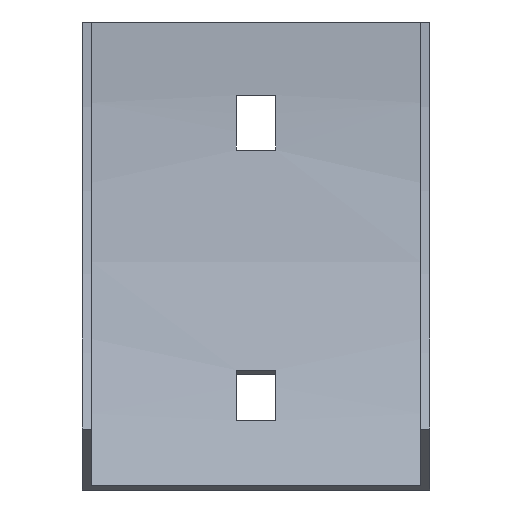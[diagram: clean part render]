
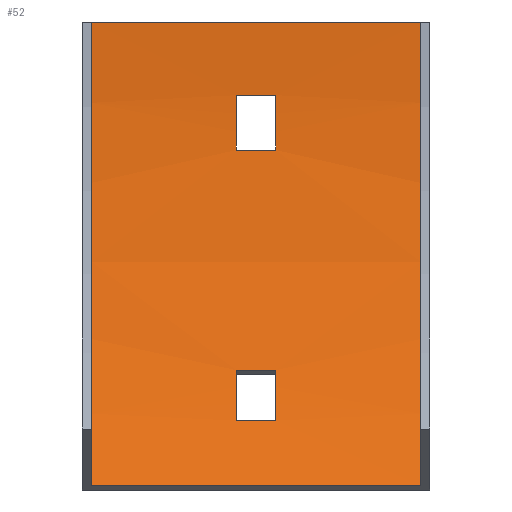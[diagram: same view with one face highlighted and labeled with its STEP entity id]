
A CAD part, front view. The second image highlights one B-rep face of the part: STEP entity #52.
In plain terms, the highlighted cylindrical face has radius 152 mm (diameter 304 mm), a partial arc.
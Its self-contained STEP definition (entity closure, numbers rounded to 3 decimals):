
#10 = ORIENTED_EDGE ( 'NONE', *, *, #499, .F. ) ;
#21 = DIRECTION ( 'NONE',  ( 1., 0., 0. ) ) ;
#26 = CARTESIAN_POINT ( 'NONE',  ( 27., -21.864, -76. ) ) ;
#31 = EDGE_CURVE ( 'NONE', #151, #496, #356, .T. ) ;
#36 = VECTOR ( 'NONE', #170, 1000. ) ;
#38 = CARTESIAN_POINT ( 'NONE',  ( 27., -1.5, 0. ) ) ;
#49 = CARTESIAN_POINT ( 'NONE',  ( 3.25, -16.275, -65.37 ) ) ;
#51 = VERTEX_POINT ( 'NONE', #474 ) ;
#52 = ADVANCED_FACE ( 'NONE', ( #326, #284, #107 ), #481, .F. ) ;
#54 = CIRCLE ( 'NONE', #358, 152. ) ;
#61 = ORIENTED_EDGE ( 'NONE', *, *, #84, .F. ) ;
#67 = CARTESIAN_POINT ( 'NONE',  ( 27., -153.5, 0. ) ) ;
#68 = DIRECTION ( 'NONE',  ( 1., 0., 0. ) ) ;
#70 = DIRECTION ( 'NONE',  ( 1., 0., 0. ) ) ;
#75 = ORIENTED_EDGE ( 'NONE', *, *, #449, .T. ) ;
#77 = CIRCLE ( 'NONE', #111, 152. ) ;
#82 = VERTEX_POINT ( 'NONE', #289 ) ;
#84 = EDGE_CURVE ( 'NONE', #199, #255, #336, .T. ) ;
#85 = EDGE_CURVE ( 'NONE', #82, #151, #439, .T. ) ;
#88 = AXIS2_PLACEMENT_3D ( 'NONE', #577, #21, #190 ) ;
#95 = EDGE_LOOP ( 'NONE', ( #456, #75, #437, #276 ) ) ;
#107 = FACE_BOUND ( 'NONE', #95, .T. ) ;
#111 = AXIS2_PLACEMENT_3D ( 'NONE', #526, #374, #240 ) ;
#114 = CARTESIAN_POINT ( 'NONE',  ( 27., -21.864, -76. ) ) ;
#117 = VERTEX_POINT ( 'NONE', #49 ) ;
#147 = CARTESIAN_POINT ( 'NONE',  ( -27., -153.5, 0. ) ) ;
#150 = CARTESIAN_POINT ( 'NONE',  ( 28.5, -12.626, -57.085 ) ) ;
#151 = VERTEX_POINT ( 'NONE', #473 ) ;
#170 = DIRECTION ( 'NONE',  ( 1., 0., 0. ) ) ;
#177 = DIRECTION ( 'NONE',  ( 0., 0., 1. ) ) ;
#181 = VECTOR ( 'NONE', #530, 1000. ) ;
#182 = ORIENTED_EDGE ( 'NONE', *, *, #85, .F. ) ;
#190 = DIRECTION ( 'NONE',  ( 0., 0., -1. ) ) ;
#199 = VERTEX_POINT ( 'NONE', #505 ) ;
#202 = VECTOR ( 'NONE', #495, 1000. ) ;
#203 = LINE ( 'NONE', #38, #263 ) ;
#211 = CARTESIAN_POINT ( 'NONE',  ( -3.25, -12.626, -57.085 ) ) ;
#240 = DIRECTION ( 'NONE',  ( 0., 0., 1. ) ) ;
#251 = VERTEX_POINT ( 'NONE', #211 ) ;
#255 = VERTEX_POINT ( 'NONE', #403 ) ;
#263 = VECTOR ( 'NONE', #507, 1000. ) ;
#273 = DIRECTION ( 'NONE',  ( 0., 0., 1. ) ) ;
#274 = EDGE_CURVE ( 'NONE', #496, #462, #472, .T. ) ;
#276 = ORIENTED_EDGE ( 'NONE', *, *, #329, .T. ) ;
#281 = DIRECTION ( 'NONE',  ( -1., 0., 0. ) ) ;
#284 = FACE_OUTER_BOUND ( 'NONE', #392, .T. ) ;
#286 = DIRECTION ( 'NONE',  ( 1., 0., 0. ) ) ;
#288 = AXIS2_PLACEMENT_3D ( 'NONE', #479, #317, #273 ) ;
#289 = CARTESIAN_POINT ( 'NONE',  ( 3.25, -1.974, -12. ) ) ;
#295 = DIRECTION ( 'NONE',  ( -1., 0., 0. ) ) ;
#306 = VECTOR ( 'NONE', #286, 1000. ) ;
#315 = VERTEX_POINT ( 'NONE', #26 ) ;
#317 = DIRECTION ( 'NONE',  ( -1., 0., 0. ) ) ;
#323 = CARTESIAN_POINT ( 'NONE',  ( -3.25, -153.5, 0. ) ) ;
#326 = FACE_BOUND ( 'NONE', #370, .T. ) ;
#329 = EDGE_CURVE ( 'NONE', #364, #117, #77, .T. ) ;
#336 = CIRCLE ( 'NONE', #469, 152. ) ;
#337 = CIRCLE ( 'NONE', #88, 152. ) ;
#341 = EDGE_CURVE ( 'NONE', #315, #199, #443, .T. ) ;
#344 = CARTESIAN_POINT ( 'NONE',  ( 28.5, -16.275, -65.37 ) ) ;
#356 = CIRCLE ( 'NONE', #514, 152. ) ;
#358 = AXIS2_PLACEMENT_3D ( 'NONE', #492, #388, #583 ) ;
#364 = VERTEX_POINT ( 'NONE', #433 ) ;
#370 = EDGE_LOOP ( 'NONE', ( #565, #182, #10, #538 ) ) ;
#374 = DIRECTION ( 'NONE',  ( -1., 0., 0. ) ) ;
#381 = CARTESIAN_POINT ( 'NONE',  ( 28.5, -1.974, -12. ) ) ;
#382 = ORIENTED_EDGE ( 'NONE', *, *, #341, .F. ) ;
#384 = CARTESIAN_POINT ( 'NONE',  ( 3.25, -2.958, -21. ) ) ;
#386 = CIRCLE ( 'NONE', #478, 152. ) ;
#388 = DIRECTION ( 'NONE',  ( 1., 0., 0. ) ) ;
#392 = EDGE_LOOP ( 'NONE', ( #61, #382, #589, #568 ) ) ;
#403 = CARTESIAN_POINT ( 'NONE',  ( -27., -1.5, 0. ) ) ;
#410 = CARTESIAN_POINT ( 'NONE',  ( 28.5, -2.958, -21. ) ) ;
#426 = EDGE_CURVE ( 'NONE', #117, #491, #599, .T. ) ;
#433 = CARTESIAN_POINT ( 'NONE',  ( 3.25, -12.626, -57.085 ) ) ;
#437 = ORIENTED_EDGE ( 'NONE', *, *, #475, .T. ) ;
#439 = LINE ( 'NONE', #381, #181 ) ;
#443 = LINE ( 'NONE', #114, #202 ) ;
#449 = EDGE_CURVE ( 'NONE', #491, #251, #337, .T. ) ;
#456 = ORIENTED_EDGE ( 'NONE', *, *, #426, .T. ) ;
#460 = VECTOR ( 'NONE', #295, 1000. ) ;
#462 = VERTEX_POINT ( 'NONE', #384 ) ;
#469 = AXIS2_PLACEMENT_3D ( 'NONE', #147, #68, #489 ) ;
#472 = LINE ( 'NONE', #410, #36 ) ;
#473 = CARTESIAN_POINT ( 'NONE',  ( -3.25, -1.974, -12. ) ) ;
#474 = CARTESIAN_POINT ( 'NONE',  ( 27., -1.5, 0. ) ) ;
#475 = EDGE_CURVE ( 'NONE', #251, #364, #539, .T. ) ;
#478 = AXIS2_PLACEMENT_3D ( 'NONE', #67, #70, #543 ) ;
#479 = CARTESIAN_POINT ( 'NONE',  ( 28.5, -153.5, 0. ) ) ;
#481 = CYLINDRICAL_SURFACE ( 'NONE', #288, 152. ) ;
#483 = CARTESIAN_POINT ( 'NONE',  ( -3.25, -16.275, -65.37 ) ) ;
#486 = CARTESIAN_POINT ( 'NONE',  ( -3.25, -2.958, -21. ) ) ;
#489 = DIRECTION ( 'NONE',  ( 0., 0., 1. ) ) ;
#491 = VERTEX_POINT ( 'NONE', #483 ) ;
#492 = CARTESIAN_POINT ( 'NONE',  ( 3.25, -153.5, 0. ) ) ;
#495 = DIRECTION ( 'NONE',  ( -1., 0., 0. ) ) ;
#496 = VERTEX_POINT ( 'NONE', #486 ) ;
#499 = EDGE_CURVE ( 'NONE', #462, #82, #54, .T. ) ;
#501 = EDGE_CURVE ( 'NONE', #315, #51, #386, .T. ) ;
#505 = CARTESIAN_POINT ( 'NONE',  ( -27., -21.864, -76. ) ) ;
#507 = DIRECTION ( 'NONE',  ( -1., 0., 0. ) ) ;
#514 = AXIS2_PLACEMENT_3D ( 'NONE', #323, #281, #177 ) ;
#526 = CARTESIAN_POINT ( 'NONE',  ( 3.25, -153.5, 0. ) ) ;
#530 = DIRECTION ( 'NONE',  ( -1., 0., 0. ) ) ;
#538 = ORIENTED_EDGE ( 'NONE', *, *, #274, .F. ) ;
#539 = LINE ( 'NONE', #150, #306 ) ;
#543 = DIRECTION ( 'NONE',  ( 0., 0., 1. ) ) ;
#565 = ORIENTED_EDGE ( 'NONE', *, *, #31, .F. ) ;
#568 = ORIENTED_EDGE ( 'NONE', *, *, #594, .T. ) ;
#577 = CARTESIAN_POINT ( 'NONE',  ( -3.25, -153.5, 0. ) ) ;
#583 = DIRECTION ( 'NONE',  ( 0., 0., -1. ) ) ;
#589 = ORIENTED_EDGE ( 'NONE', *, *, #501, .T. ) ;
#594 = EDGE_CURVE ( 'NONE', #51, #255, #203, .T. ) ;
#599 = LINE ( 'NONE', #344, #460 ) ;
